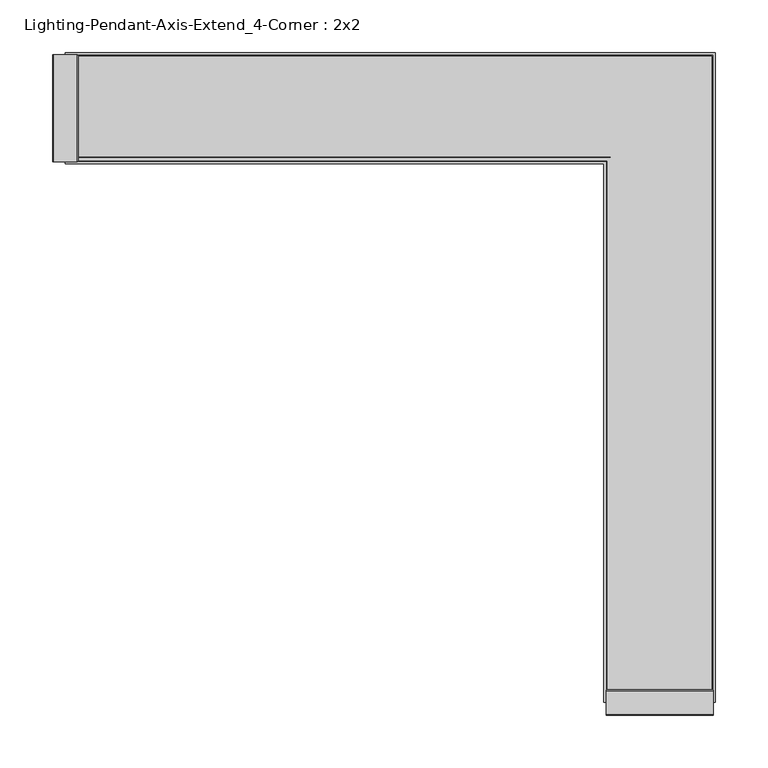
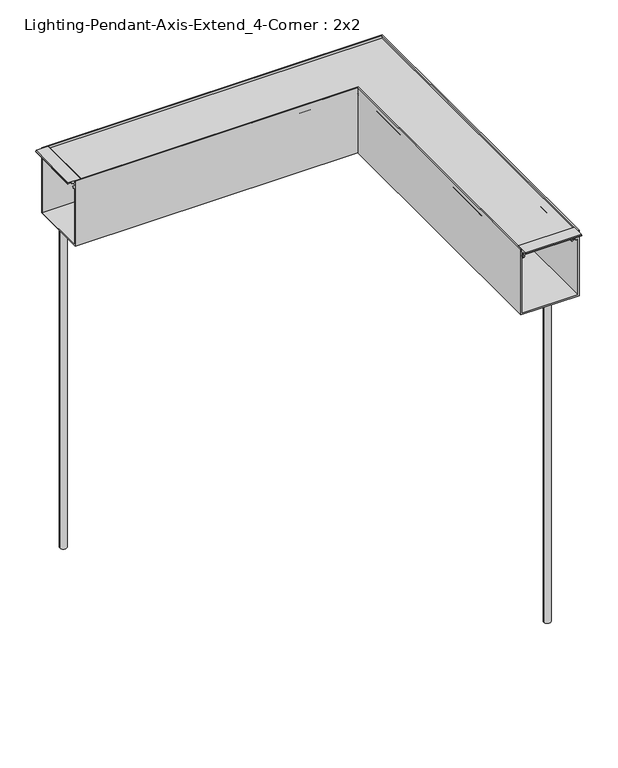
"""IFC4 building model written with IfcOpenShell, lengths in millimetres: light fixture geometry, Lighting-Pendant-Axis-Extend_4-Corner : 2x2."""

from ifc_helpers import new_model, si_unit, frame, origin, place, context, project, spatial, polyline, circle_curve, ellipse_curve, outline, extrude, source, transform, mapped, element, save
from ifc_brep_helpers import plane_surface, cylinder_surface, revolved_surface, advanced_brep


def lighting_pendant_axis_extend_4_corner_2x2_686a5cb6(model_context):
    return source(origin(), model_context, "Body", "SolidModel", [
        extrude(outline(polyline([(-551.65879, 733.2757861), (-551.65879, 731.80575), (-552.45254, 731.80575), (-552.45254, 732.5995), (-558.92319, 732.5995), (-558.92319, 729.7932981), (-568.60059, 729.7932981), (-568.60059, 732.5995), (-575.07124, 732.5995), (-575.07124, 731.80575), (-575.86499, 731.80575), (-575.86499, 733.2757861), (-574.9404463, 734.3775), (-552.5833337, 734.3775), (-551.65879, 733.2757861)])), frame((-50.75301, 0.0, 0.0), z_axis=(1.0, 0.0, 0.0), x_axis=(0.0, 1.0, 0.0)), (0.0, 0.0, 1.0), 101.50602),
        extrude(outline(polyline([(733.2757861, -551.65879), (734.3775, -552.5833337), (734.3775, -574.9404463), (733.2757861, -575.86499), (731.80575, -575.86499), (731.80575, -575.07124), (732.5995, -575.07124), (732.5995, -568.60059), (729.7932981, -568.60059), (729.7932981, -558.92319), (732.5995, -558.92319), (732.5995, -552.45254), (731.80575, -552.45254), (731.80575, -551.65879), (733.2757861, -551.65879)])), frame((0.0, -50.75301, 0.0), z_axis=(0.0, 1.0, 0.0), x_axis=(0.0, 0.0, 1.0)), (0.0, 0.0, 1.0), 101.50602),
        advanced_brep(
        [(6.35, -555.03699, 609.6), (-6.35, -555.03699, 609.6), (0.0, -555.03699, 609.6), (6.35, -555.03699, 0.0), (-6.35, -555.03699, 0.0), (0.0, -555.03699, 0.0)],
        [
            (0, 1, circle_curve(frame((0.0, -555.03699, 609.6), z_axis=(0.0, 0.0, 1.0), x_axis=(-1.0, 0.0, 0.0)), 6.35)),
            (1, 2),
            (2, 0),
            (1, 0, circle_curve(frame((0.0, -555.03699, 609.6), z_axis=(0.0, 0.0, 1.0), x_axis=(-1.0, 0.0, 0.0)), 6.35)),
            (3, 4, circle_curve(frame((0.0, -555.03699, 0.0), z_axis=(0.0, 0.0, 1.0), x_axis=(-1.0, 0.0, 0.0)), 6.35)),
            (4, 1),
            (0, 3),
            (4, 3, circle_curve(frame((0.0, -555.03699, 0.0), z_axis=(0.0, 0.0, 1.0), x_axis=(-1.0, 0.0, 0.0)), 6.35)),
            (5, 4),
            (3, 5),
        ],
        [
            plane_surface(frame((0.0, -555.03699, 609.6), z_axis=(0.0, 0.0, 1.0), x_axis=(-1.0, 0.0, 0.0))),
            cylinder_surface(frame((0.0, -555.03699, 2913.8581012), z_axis=(0.0, 0.0, -1.0), x_axis=(-1.0, 0.0, 0.0)), 6.35),
            plane_surface(frame((0.0, -555.03699, 0.0), z_axis=(0.0, 0.0, -1.0), x_axis=(-1.0, 0.0, 0.0))),
        ],
        [
            (0, [[1, 2, 3]]),
            (0, [[4, -3, -2]]),
            (1, [[5, 6, -1, 7]]),
            (1, [[8, -7, -4, -6]]),
            (2, [[9, -5, 10]]),
            (2, [[-10, -8, -9]]),
        ],
    ),
        advanced_brep(
        [(-548.68699, 0.0, 609.6), (-561.38699, 0.0, 609.6), (-555.03699, 0.0, 609.6), (-548.68699, 0.0, 0.0), (-561.38699, 0.0, 0.0), (-555.03699, 0.0, 0.0)],
        [
            (0, 1, circle_curve(frame((-555.03699, 0.0, 609.6), z_axis=(0.0, 0.0, 1.0), x_axis=(-1.0, 0.0, 0.0)), 6.35)),
            (1, 2),
            (2, 0),
            (1, 0, circle_curve(frame((-555.03699, 0.0, 609.6), z_axis=(0.0, 0.0, 1.0), x_axis=(-1.0, 0.0, 0.0)), 6.35)),
            (3, 4, circle_curve(frame((-555.03699, 0.0, 0.0), z_axis=(0.0, 0.0, 1.0), x_axis=(-1.0, 0.0, 0.0)), 6.35)),
            (4, 1),
            (0, 3),
            (4, 3, circle_curve(frame((-555.03699, 0.0, 0.0), z_axis=(0.0, 0.0, 1.0), x_axis=(-1.0, 0.0, 0.0)), 6.35)),
            (5, 4),
            (3, 5),
        ],
        [
            plane_surface(frame((-555.03699, 0.0, 609.6), z_axis=(0.0, 0.0, 1.0), x_axis=(-1.0, 0.0, 0.0))),
            cylinder_surface(frame((-555.03699, 0.0, 2913.8581012), z_axis=(0.0, 0.0, -1.0), x_axis=(-1.0, 0.0, 0.0)), 6.35),
            plane_surface(frame((-555.03699, 0.0, 0.0), z_axis=(0.0, 0.0, -1.0), x_axis=(-1.0, 0.0, 0.0))),
        ],
        [
            (0, [[1, 2, 3]]),
            (0, [[4, -3, -2]]),
            (1, [[5, 6, -1, 7]]),
            (1, [[8, -7, -4, -6]]),
            (2, [[9, -5, 10]]),
            (2, [[-10, -8, -9]]),
        ],
    ),
        advanced_brep(
        [(-556.81499, -44.9537362, 729.4879991), (-556.81499, -45.2924281, 723.0253737), (-556.81499, -46.1628914, 716.4194903), (-556.81499, -45.3476056, 714.9217575), (-556.81499, -43.9929166, 713.7223555), (-556.81499, -44.973818, 712.3943369), (-556.81499, -46.5470052, 713.7871908), (-556.81499, -47.8918907, 717.61776), (-556.81499, -46.2564041, 721.6569658), (-556.81499, -46.9204959, 723.5061789), (-556.81499, -46.607002, 729.4879991), (-556.81499, -49.61001, 729.4879991), (-556.81499, -49.61001, 731.393), (-556.81499, 49.61001, 731.393), (-556.81499, 49.61001, 729.4879991), (-556.81499, 46.607002, 729.4879991), (-556.81499, 46.9204959, 723.5061789), (-556.81499, 46.2564041, 721.6569658), (-556.81499, 47.8918907, 717.61776), (-556.81499, 46.5470052, 713.7871908), (-556.81499, 44.973818, 712.3943369), (-556.81499, 43.9929166, 713.7223555), (-556.81499, 45.3476056, 714.9217575), (-556.81499, 46.1628914, 716.4194903), (-556.81499, 45.2924281, 723.0253737), (-556.81499, 44.9537362, 729.4879991), (-44.9537362, -556.81499, 729.4879991), (44.9537362, -556.81499, 729.4879991), (45.2924281, -556.81499, 723.0253737), (46.1628914, -556.81499, 716.4194903), (45.3476056, -556.81499, 714.9217575), (43.9929166, -556.81499, 713.7223555), (44.973818, -556.81499, 712.3943369), (46.5470052, -556.81499, 713.7871908), (47.8918907, -556.81499, 717.61776), (46.2564041, -556.81499, 721.6569658), (46.9204959, -556.81499, 723.5061789), (46.607002, -556.81499, 729.4879991), (49.61001, -556.81499, 729.4879991), (49.61001, -556.81499, 731.393), (-49.61001, -556.81499, 731.393), (-49.61001, -556.81499, 729.4879991), (-46.607002, -556.81499, 729.4879991), (-46.9204959, -556.81499, 723.5061789), (-46.2564041, -556.81499, 721.6569658), (-47.8918907, -556.81499, 717.61776), (-46.5470052, -556.81499, 713.7871908), (-44.973818, -556.81499, 712.3943369), (-43.9929166, -556.81499, 713.7223555), (-45.3476056, -556.81499, 714.9217575), (-46.1628914, -556.81499, 716.4194903), (-45.2924281, -556.81499, 723.0253737), (-44.9537362, -44.9537362, 729.4879991), (-45.2924281, -45.2924281, 723.0253737), (-46.1628914, -46.1628914, 716.4194903), (-45.3476056, -45.3476056, 714.9217575), (-43.9929166, -43.9929166, 713.7223555), (-44.973818, -44.973818, 712.3943369), (-46.5470052, -46.5470052, 713.7871908), (-47.8918907, -47.8918907, 717.61776), (-46.2564041, -46.2564041, 721.6569658), (-46.9204959, -46.9204959, 723.5061789), (-46.607002, -46.607002, 729.4879991), (-49.61001, -49.61001, 729.4879991), (-49.61001, -49.61001, 731.393), (49.61001, 49.61001, 731.393), (44.9537362, 44.9537362, 729.4879991), (49.61001, 49.61001, 729.4879991), (46.607002, 46.607002, 729.4879991), (46.9204959, 46.9204959, 723.5061789), (46.2564041, 46.2564041, 721.6569658), (47.8918907, 47.8918907, 717.61776), (46.5470052, 46.5470052, 713.7871908), (44.973818, 44.973818, 712.3943369), (43.9929166, 43.9929166, 713.7223555), (45.3476056, 45.3476056, 714.9217575), (46.1628914, 46.1628914, 716.4194903), (45.2924281, 45.2924281, 723.0253737)],
        [
            (0, 1),
            (1, 2, circle_curve(frame((-556.81499, -48.03521, 720.0265), z_axis=(-1.0, 0.0, 0.0), x_axis=(0.0, 0.6748971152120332, 0.7379118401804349)), 4.064)),
            (2, 3, circle_curve(frame((-556.81499, -42.930354, 717.2083457), z_axis=(1.0, 0.0, 0.0), x_axis=(0.0, -0.9714904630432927, -0.23707863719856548)), 3.3274001)),
            (3, 4, circle_curve(frame((-556.81499, -37.9113277, 721.9560708), z_axis=(1.0, 0.0, 0.0), x_axis=(0.0, -0.7264901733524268, -0.68717685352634)), 10.2362001)),
            (4, 5, circle_curve(frame((-556.81499, -44.4833673, 713.0583462), z_axis=(-1.0, 0.0, 0.0), x_axis=(0.0, 0.5941256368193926, 0.8043722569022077)), 0.8255)),
            (5, 6, circle_curve(frame((-556.81499, -37.9113269, 721.9560717), z_axis=(-1.0, 0.0, 0.0), x_axis=(0.0, -0.594125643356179, -0.8043722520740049)), 11.8872013)),
            (6, 7, circle_curve(frame((-556.81499, -42.930354, 717.2083457), z_axis=(-1.0, 0.0, 0.0), x_axis=(0.0, -0.7264685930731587, -0.6871996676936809)), 4.9784001)),
            (7, 8, circle_curve(frame((-556.81499, -48.03521, 720.0265), z_axis=(1.0, 0.0, 0.0), x_axis=(0.0, 0.05939464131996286, -0.9982345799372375)), 2.413)),
            (8, 9, circle_curve(frame((-556.81499, -44.3839769, 723.3732456), z_axis=(-1.0, 0.0, 0.0), x_axis=(0.0, -0.7371760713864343, -0.675700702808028)), 2.54)),
            (9, 10),
            (10, 11),
            (11, 12),
            (12, 13),
            (13, 14),
            (14, 15),
            (15, 16),
            (16, 17, circle_curve(frame((-556.81499, 44.3839769, 723.3732456), z_axis=(-1.0, 0.0, 0.0), x_axis=(0.0, 0.7371760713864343, -0.675700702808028)), 2.54)),
            (17, 18, circle_curve(frame((-556.81499, 48.03521, 720.0265), z_axis=(1.0, 0.0, 0.0), x_axis=(0.0, -0.05939464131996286, -0.9982345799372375)), 2.413)),
            (18, 19, circle_curve(frame((-556.81499, 42.930354, 717.2083457), z_axis=(-1.0, 0.0, 0.0), x_axis=(0.0, 0.7264685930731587, -0.6871996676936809)), 4.9784001)),
            (19, 20, circle_curve(frame((-556.81499, 37.9113269, 721.9560717), z_axis=(-1.0, 0.0, 0.0), x_axis=(0.0, 0.594125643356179, -0.8043722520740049)), 11.8872013)),
            (20, 21, circle_curve(frame((-556.81499, 44.4833673, 713.0583462), z_axis=(-1.0, 0.0, 0.0), x_axis=(0.0, -0.5941256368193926, 0.8043722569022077)), 0.8255)),
            (21, 22, circle_curve(frame((-556.81499, 37.9113277, 721.9560708), z_axis=(1.0, 0.0, 0.0), x_axis=(0.0, 0.7264901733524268, -0.68717685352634)), 10.2362001)),
            (22, 23, circle_curve(frame((-556.81499, 42.930354, 717.2083457), z_axis=(1.0, 0.0, 0.0), x_axis=(0.0, 0.9714904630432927, -0.23707863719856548)), 3.3274001)),
            (23, 24, circle_curve(frame((-556.81499, 48.03521, 720.0265), z_axis=(-1.0, 0.0, 0.0), x_axis=(0.0, -0.6748971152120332, 0.7379118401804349)), 4.064)),
            (24, 25),
            (25, 0),
            (26, 27),
            (27, 28),
            (28, 29, circle_curve(frame((48.03521, -556.81499, 720.0265), z_axis=(0.0, -1.0, 0.0), x_axis=(-0.6748971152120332, 0.0, 0.7379118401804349)), 4.064)),
            (29, 30, circle_curve(frame((42.930354, -556.81499, 717.2083457), z_axis=(0.0, 1.0, 0.0), x_axis=(0.9714904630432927, 0.0, -0.23707863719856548)), 3.3274001)),
            (30, 31, circle_curve(frame((37.9113277, -556.81499, 721.9560708), z_axis=(0.0, 1.0, 0.0), x_axis=(0.7264901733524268, 0.0, -0.68717685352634)), 10.2362001)),
            (31, 32, circle_curve(frame((44.4833673, -556.81499, 713.0583462), z_axis=(0.0, -1.0, 0.0), x_axis=(-0.5941256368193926, 0.0, 0.8043722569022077)), 0.8255)),
            (32, 33, circle_curve(frame((37.9113269, -556.81499, 721.9560717), z_axis=(0.0, -1.0, 0.0), x_axis=(0.594125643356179, 0.0, -0.8043722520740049)), 11.8872013)),
            (33, 34, circle_curve(frame((42.930354, -556.81499, 717.2083457), z_axis=(0.0, -1.0, 0.0), x_axis=(0.7264685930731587, 0.0, -0.6871996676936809)), 4.9784001)),
            (34, 35, circle_curve(frame((48.03521, -556.81499, 720.0265), z_axis=(0.0, 1.0, 0.0), x_axis=(-0.05939464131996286, 0.0, -0.9982345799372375)), 2.413)),
            (35, 36, circle_curve(frame((44.3839769, -556.81499, 723.3732456), z_axis=(0.0, -1.0, 0.0), x_axis=(0.7371760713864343, 0.0, -0.675700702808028)), 2.54)),
            (36, 37),
            (37, 38),
            (38, 39),
            (39, 40),
            (40, 41),
            (41, 42),
            (42, 43),
            (43, 44, circle_curve(frame((-44.3839769, -556.81499, 723.3732456), z_axis=(0.0, -1.0, 0.0), x_axis=(-0.7371760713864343, 0.0, -0.675700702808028)), 2.54)),
            (44, 45, circle_curve(frame((-48.03521, -556.81499, 720.0265), z_axis=(0.0, 1.0, 0.0), x_axis=(0.05939464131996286, 0.0, -0.9982345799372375)), 2.413)),
            (45, 46, circle_curve(frame((-42.930354, -556.81499, 717.2083457), z_axis=(0.0, -1.0, 0.0), x_axis=(-0.7264685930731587, 0.0, -0.6871996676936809)), 4.9784001)),
            (46, 47, circle_curve(frame((-37.9113269, -556.81499, 721.9560717), z_axis=(0.0, -1.0, 0.0), x_axis=(-0.594125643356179, 0.0, -0.8043722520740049)), 11.8872013)),
            (47, 48, circle_curve(frame((-44.4833673, -556.81499, 713.0583462), z_axis=(0.0, -1.0, 0.0), x_axis=(0.5941256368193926, 0.0, 0.8043722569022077)), 0.8255)),
            (48, 49, circle_curve(frame((-37.9113277, -556.81499, 721.9560708), z_axis=(0.0, 1.0, 0.0), x_axis=(-0.7264901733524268, 0.0, -0.68717685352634)), 10.2362001)),
            (49, 50, circle_curve(frame((-42.930354, -556.81499, 717.2083457), z_axis=(0.0, 1.0, 0.0), x_axis=(-0.9714904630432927, 0.0, -0.23707863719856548)), 3.3274001)),
            (50, 51, circle_curve(frame((-48.03521, -556.81499, 720.0265), z_axis=(0.0, -1.0, 0.0), x_axis=(0.6748971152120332, 0.0, 0.7379118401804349)), 4.064)),
            (51, 26),
            (0, 52),
            (52, 53),
            (53, 1),
            (53, 54, ellipse_curve(frame((-48.03521, -48.03521, 720.0265), z_axis=(-0.7071067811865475, 0.7071067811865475, 0.0), x_axis=(-0.7071067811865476, -0.7071067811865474, 0.0)), 5.7473639, 4.064)),
            (54, 2),
            (54, 55, ellipse_curve(frame((-42.930354, -42.930354, 717.2083457), z_axis=(0.7071067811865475, -0.7071067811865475, 0.0), x_axis=(0.7071067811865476, 0.7071067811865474, 0.0)), 4.7056543, 3.3274001)),
            (55, 3),
            (55, 56, ellipse_curve(frame((-37.9113277, -37.9113277, 721.9560708), z_axis=(0.7071067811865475, -0.7071067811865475, 0.0), x_axis=(0.7071067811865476, 0.7071067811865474, 0.0)), 14.476173, 10.2362001)),
            (56, 4),
            (56, 57, ellipse_curve(frame((-44.4833673, -44.4833673, 713.0583462), z_axis=(-0.7071067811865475, 0.7071067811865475, 0.0), x_axis=(-0.7071067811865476, -0.7071067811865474, 0.0)), 1.1674333, 0.8255)),
            (57, 5),
            (57, 58, ellipse_curve(frame((-37.9113269, -37.9113269, 721.9560717), z_axis=(-0.7071067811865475, 0.7071067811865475, 0.0), x_axis=(-0.7071067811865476, -0.7071067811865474, 0.0)), 16.8110412, 11.8872013)),
            (58, 6),
            (58, 59, ellipse_curve(frame((-42.930354, -42.930354, 717.2083457), z_axis=(-0.7071067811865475, 0.7071067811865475, 0.0), x_axis=(-0.7071067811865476, -0.7071067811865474, 0.0)), 7.0405209, 4.9784001)),
            (59, 7),
            (59, 60, ellipse_curve(frame((-48.03521, -48.03521, 720.0265), z_axis=(0.7071067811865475, -0.7071067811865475, 0.0), x_axis=(0.7071067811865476, 0.7071067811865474, 0.0)), 3.4124973, 2.413)),
            (60, 8),
            (60, 61, ellipse_curve(frame((-44.3839769, -44.3839769, 723.3732456), z_axis=(-0.7071067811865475, 0.7071067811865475, 0.0), x_axis=(-0.7071067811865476, -0.7071067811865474, 0.0)), 3.5921024, 2.54)),
            (61, 9),
            (61, 62),
            (62, 10),
            (62, 42),
            (41, 63),
            (63, 11),
            (63, 64),
            (64, 12),
            (64, 40),
            (39, 65),
            (65, 13),
            (25, 66),
            (66, 27),
            (26, 52),
            (65, 67),
            (67, 14),
            (67, 38),
            (37, 68),
            (68, 15),
            (68, 69),
            (69, 16),
            (69, 70, ellipse_curve(frame((44.3839769, 44.3839769, 723.3732456), z_axis=(-0.7071067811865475, 0.7071067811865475, 0.0), x_axis=(-0.7071067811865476, -0.7071067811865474, 0.0)), 3.5921024, 2.54)),
            (70, 17),
            (70, 71, ellipse_curve(frame((48.03521, 48.03521, 720.0265), z_axis=(0.7071067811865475, -0.7071067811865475, 0.0), x_axis=(0.7071067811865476, 0.7071067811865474, 0.0)), 3.4124973, 2.413)),
            (71, 18),
            (71, 72, ellipse_curve(frame((42.930354, 42.930354, 717.2083457), z_axis=(-0.7071067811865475, 0.7071067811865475, 0.0), x_axis=(-0.7071067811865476, -0.7071067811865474, 0.0)), 7.0405209, 4.9784001)),
            (72, 19),
            (72, 73, ellipse_curve(frame((37.9113269, 37.9113269, 721.9560717), z_axis=(-0.7071067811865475, 0.7071067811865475, 0.0), x_axis=(-0.7071067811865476, -0.7071067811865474, 0.0)), 16.8110412, 11.8872013)),
            (73, 20),
            (73, 74, ellipse_curve(frame((44.4833673, 44.4833673, 713.0583462), z_axis=(-0.7071067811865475, 0.7071067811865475, 0.0), x_axis=(-0.7071067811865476, -0.7071067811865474, 0.0)), 1.1674333, 0.8255)),
            (74, 21),
            (74, 75, ellipse_curve(frame((37.9113277, 37.9113277, 721.9560708), z_axis=(0.7071067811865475, -0.7071067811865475, 0.0), x_axis=(0.7071067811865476, 0.7071067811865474, 0.0)), 14.476173, 10.2362001)),
            (75, 22),
            (75, 76, ellipse_curve(frame((42.930354, 42.930354, 717.2083457), z_axis=(0.7071067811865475, -0.7071067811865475, 0.0), x_axis=(0.7071067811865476, 0.7071067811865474, 0.0)), 4.7056543, 3.3274001)),
            (76, 23),
            (76, 77, ellipse_curve(frame((48.03521, 48.03521, 720.0265), z_axis=(-0.7071067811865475, 0.7071067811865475, 0.0), x_axis=(-0.7071067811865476, -0.7071067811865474, 0.0)), 5.7473639, 4.064)),
            (77, 24),
            (77, 66),
            (51, 53),
            (50, 54),
            (49, 55),
            (48, 56),
            (47, 57),
            (46, 58),
            (45, 59),
            (44, 60),
            (43, 61),
            (36, 69),
            (35, 70),
            (34, 71),
            (33, 72),
            (32, 73),
            (31, 74),
            (30, 75),
            (29, 76),
            (28, 77),
        ],
        [
            plane_surface(frame((-556.81499, 0.0, 0.0), z_axis=(-1.0, 0.0, 0.0), x_axis=(0.0, 0.0, 1.0))),
            plane_surface(frame((0.0, -556.81499, 0.0), z_axis=(0.0, -1.0, 0.0), x_axis=(0.0, 0.0, 1.0))),
            plane_surface(frame((-556.81499, -44.9537362, 729.4879991), z_axis=(0.0, 0.9986295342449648, -0.05233596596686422), x_axis=(1.0, 0.0, 0.0))),
            cylinder_surface(frame((-556.81499, -48.03521, 720.0265), z_axis=(-1.0, 0.0, 0.0), x_axis=(0.0, 0.6748971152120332, 0.7379118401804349)), 4.064),
            revolved_surface(polyline([(-39.6029539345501, -46.1628914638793, 716.4194902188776), (-556.81499, -46.1628914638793, 716.4194902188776)]), (-556.81499, -42.930354, 717.2083457), (1.0000000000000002, 0.0, 0.0)),
            revolved_surface(polyline([(-27.67512760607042, -45.34782648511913, 714.921991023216), (-556.81499, -45.34782648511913, 714.921991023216)]), (-556.81499, -37.9113277, 721.9560708), (1.0, 0.0, 0.0)),
            cylinder_surface(frame((-556.81499, -44.4833673, 713.0583462), z_axis=(-1.0, 0.0, 0.0), x_axis=(0.0, 0.5941256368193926, 0.8043722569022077)), 0.8255),
            cylinder_surface(frame((-556.81499, -37.9113269, 721.9560717), z_axis=(-1.0, 0.0, 0.0), x_axis=(0.0, -0.594125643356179, -0.8043722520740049)), 11.8872013),
            cylinder_surface(frame((-556.81499, -42.930354, 717.2083457), z_axis=(-1.0, 0.0, 0.0), x_axis=(0.0, -0.7264685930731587, -0.6871996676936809)), 4.9784001),
            revolved_surface(polyline([(-45.62221001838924, -47.89189073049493, 717.6177599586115), (-556.81499, -47.89189073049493, 717.6177599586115)]), (-556.81499, -48.03521, 720.0265), (1.0, 0.0, 0.0)),
            cylinder_surface(frame((-556.81499, -44.3839769, 723.3732456), z_axis=(-1.0, 0.0, 0.0), x_axis=(0.0, -0.7371760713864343, -0.675700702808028)), 2.54),
            plane_surface(frame((-556.81499, -46.9204959, 723.5061789), z_axis=(0.0, -0.9986295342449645, 0.05233596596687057), x_axis=(1.0, 0.0, 0.0))),
            plane_surface(frame((-556.81499, -46.607002, 729.4879991), z_axis=(0.0, 0.0, -1.0), x_axis=(1.0, 0.0, 0.0))),
            plane_surface(frame((-556.81499, -49.61001, 729.4879991), z_axis=(0.0, -1.0, 0.0), x_axis=(1.0, 0.0, 0.0))),
            plane_surface(frame((-556.81499, -49.61001, 731.393), z_axis=(0.0, 0.0, 1.0), x_axis=(1.0, 0.0, 0.0))),
            plane_surface(frame((-556.81499, 44.9537362, 729.4879991), z_axis=(0.0, 0.0, -1.0), x_axis=(1.0, 0.0, 0.0))),
            plane_surface(frame((-556.81499, 49.61001, 731.393), z_axis=(0.0, 1.0, 0.0), x_axis=(1.0, 0.0, 0.0))),
            plane_surface(frame((-556.81499, 49.61001, 729.4879991), z_axis=(0.0, 0.0, -1.0), x_axis=(1.0, 0.0, 0.0))),
            plane_surface(frame((-556.81499, 46.607002, 729.4879991), z_axis=(0.0, 0.9986295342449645, 0.05233596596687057), x_axis=(1.0, 0.0, 0.0))),
            cylinder_surface(frame((-556.81499, 44.3839769, 723.3732456), z_axis=(-1.0, 0.0, 0.0), x_axis=(0.0, 0.7371760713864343, -0.675700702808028)), 2.54),
            revolved_surface(polyline([(50.44820998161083, 47.89189073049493, 717.6177599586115), (-556.81499, 47.89189073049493, 717.6177599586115)]), (-556.81499, 48.03521, 720.0265), (1.0, 0.0, 0.0)),
            cylinder_surface(frame((-556.81499, 42.930354, 717.2083457), z_axis=(-1.0, 0.0, 0.0), x_axis=(0.0, 0.7264685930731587, -0.6871996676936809)), 4.9784001),
            cylinder_surface(frame((-556.81499, 37.9113269, 721.9560717), z_axis=(-1.0, 0.0, 0.0), x_axis=(0.0, 0.594125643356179, -0.8043722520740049)), 11.8872013),
            cylinder_surface(frame((-556.81499, 44.4833673, 713.0583462), z_axis=(-1.0, 0.0, 0.0), x_axis=(0.0, -0.5941256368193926, 0.8043722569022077)), 0.8255),
            revolved_surface(polyline([(48.14752779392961, 45.34782648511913, 714.921991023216), (-556.81499, 45.34782648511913, 714.921991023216)]), (-556.81499, 37.9113277, 721.9560708), (1.0, 0.0, 0.0)),
            revolved_surface(polyline([(46.25775406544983, 46.1628914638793, 716.4194902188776), (-556.81499, 46.1628914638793, 716.4194902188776)]), (-556.81499, 42.930354, 717.2083457), (1.0000000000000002, 0.0, 0.0)),
            cylinder_surface(frame((-556.81499, 48.03521, 720.0265), z_axis=(-1.0, 0.0, 0.0), x_axis=(0.0, -0.6748971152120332, 0.7379118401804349)), 4.064),
            plane_surface(frame((-556.81499, 45.2924281, 723.0253737), z_axis=(0.0, -0.9986295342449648, -0.05233596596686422), x_axis=(1.0, 0.0, 0.0))),
            plane_surface(frame((-44.9537362, -44.9537362, 729.4879991), z_axis=(0.9986295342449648, 0.0, -0.05233596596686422), x_axis=(0.0, -1.0, 0.0))),
            cylinder_surface(frame((-48.03521, 0.0, 720.0265), z_axis=(0.0, 1.0, 0.0), x_axis=(0.6748971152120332, 0.0, 0.7379118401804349)), 4.064),
            revolved_surface(polyline([(-46.1628914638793, -556.8149900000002, 716.4194902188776), (-46.1628914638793, -39.60295393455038, 716.4194902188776)]), (-42.930354, 0.0, 717.2083457), (0.0, -1.0000000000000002, 0.0)),
            revolved_surface(polyline([(-45.34782648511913, -556.81499, 714.921991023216), (-45.34782648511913, -27.675127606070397, 714.921991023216)]), (-37.9113277, 0.0, 721.9560708), (0.0, -1.0, 0.0)),
            cylinder_surface(frame((-44.4833673, 0.0, 713.0583462), z_axis=(0.0, 1.0, 0.0), x_axis=(0.5941256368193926, 0.0, 0.8043722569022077)), 0.8255),
            cylinder_surface(frame((-37.9113269, 0.0, 721.9560717), z_axis=(0.0, 1.0, 0.0), x_axis=(-0.594125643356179, 0.0, -0.8043722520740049)), 11.8872013),
            cylinder_surface(frame((-42.930354, 0.0, 717.2083457), z_axis=(0.0, 1.0, 0.0), x_axis=(-0.7264685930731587, 0.0, -0.6871996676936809)), 4.9784001),
            revolved_surface(polyline([(-47.89189073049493, -556.81499, 717.6177599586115), (-47.89189073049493, -45.62221001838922, 717.6177599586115)]), (-48.03521, 0.0, 720.0265), (0.0, -1.0, 0.0)),
            cylinder_surface(frame((-44.3839769, 0.0, 723.3732456), z_axis=(0.0, 1.0, 0.0), x_axis=(-0.7371760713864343, 0.0, -0.675700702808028)), 2.54),
            plane_surface(frame((-46.9204959, -46.9204959, 723.5061789), z_axis=(-0.9986295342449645, 0.0, 0.05233596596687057), x_axis=(0.0, -1.0, 0.0))),
            plane_surface(frame((-49.61001, -49.61001, 729.4879991), z_axis=(-1.0, 0.0, 0.0), x_axis=(0.0, -1.0, 0.0))),
            plane_surface(frame((49.61001, 49.61001, 731.393), z_axis=(1.0, 0.0, 0.0), x_axis=(0.0, -1.0, 0.0))),
            plane_surface(frame((46.607002, 46.607002, 729.4879991), z_axis=(0.9986295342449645, 0.0, 0.05233596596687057), x_axis=(0.0, -1.0, 0.0))),
            cylinder_surface(frame((44.3839769, 0.0, 723.3732456), z_axis=(0.0, 1.0, 0.0), x_axis=(0.7371760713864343, 0.0, -0.675700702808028)), 2.54),
            revolved_surface(polyline([(47.89189073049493, -556.81499, 717.6177599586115), (47.89189073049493, 50.44820998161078, 717.6177599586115)]), (48.03521, 0.0, 720.0265), (0.0, -1.0, 0.0)),
            cylinder_surface(frame((42.930354, 0.0, 717.2083457), z_axis=(0.0, 1.0, 0.0), x_axis=(0.7264685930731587, 0.0, -0.6871996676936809)), 4.9784001),
            cylinder_surface(frame((37.9113269, 0.0, 721.9560717), z_axis=(0.0, 1.0, 0.0), x_axis=(0.594125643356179, 0.0, -0.8043722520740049)), 11.8872013),
            cylinder_surface(frame((44.4833673, 0.0, 713.0583462), z_axis=(0.0, 1.0, 0.0), x_axis=(-0.5941256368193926, 0.0, 0.8043722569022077)), 0.8255),
            revolved_surface(polyline([(45.34782648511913, -556.81499, 714.921991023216), (45.34782648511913, 48.147527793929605, 714.921991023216)]), (37.9113277, 0.0, 721.9560708), (0.0, -1.0, 0.0)),
            revolved_surface(polyline([(46.1628914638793, -556.8149900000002, 716.4194902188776), (46.1628914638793, 46.25775406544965, 716.4194902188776)]), (42.930354, 0.0, 717.2083457), (0.0, -1.0000000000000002, 0.0)),
            cylinder_surface(frame((48.03521, 0.0, 720.0265), z_axis=(0.0, 1.0, 0.0), x_axis=(-0.6748971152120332, 0.0, 0.7379118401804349)), 4.064),
            plane_surface(frame((45.2924281, 45.2924281, 723.0253737), z_axis=(-0.9986295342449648, 0.0, -0.05233596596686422), x_axis=(0.0, -1.0, 0.0))),
        ],
        [
            (0, [[1, 2, 3, 4, 5, 6, 7, 8, 9, 10, 11, 12, 13, 14, 15, 16, 17, 18, 19, 20, 21, 22, 23, 24, 25, 26]]),
            (1, [[27, 28, 29, 30, 31, 32, 33, 34, 35, 36, 37, 38, 39, 40, 41, 42, 43, 44, 45, 46, 47, 48, 49, 50, 51, 52]]),
            (2, [[-1, 53, 54, 55]]),
            (3, [[-2, -55, 56, 57]]),
            (4, [[-3, -57, 58, 59]]),
            (5, [[-4, -59, 60, 61]]),
            (6, [[-5, -61, 62, 63]]),
            (7, [[-6, -63, 64, 65]]),
            (8, [[-7, -65, 66, 67]]),
            (9, [[-8, -67, 68, 69]]),
            (10, [[-9, -69, 70, 71]]),
            (11, [[-10, -71, 72, 73]]),
            (12, [[-11, -73, 74, -42, 75, 76]]),
            (13, [[-12, -76, 77, 78]]),
            (14, [[-13, -78, 79, -40, 80, 81]]),
            (15, [[-26, 82, 83, -27, 84, -53]]),
            (16, [[-14, -81, 85, 86]]),
            (17, [[-15, -86, 87, -38, 88, 89]]),
            (18, [[-16, -89, 90, 91]]),
            (19, [[-17, -91, 92, 93]]),
            (20, [[-18, -93, 94, 95]]),
            (21, [[-19, -95, 96, 97]]),
            (22, [[-20, -97, 98, 99]]),
            (23, [[-21, -99, 100, 101]]),
            (24, [[-22, -101, 102, 103]]),
            (25, [[-23, -103, 104, 105]]),
            (26, [[-24, -105, 106, 107]]),
            (27, [[-25, -107, 108, -82]]),
            (28, [[-54, -84, -52, 109]]),
            (29, [[-56, -109, -51, 110]]),
            (30, [[-58, -110, -50, 111]]),
            (31, [[-60, -111, -49, 112]]),
            (32, [[-62, -112, -48, 113]]),
            (33, [[-64, -113, -47, 114]]),
            (34, [[-66, -114, -46, 115]]),
            (35, [[-68, -115, -45, 116]]),
            (36, [[-70, -116, -44, 117]]),
            (37, [[-72, -117, -43, -74]]),
            (38, [[-77, -75, -41, -79]]),
            (39, [[-85, -80, -39, -87]]),
            (40, [[-90, -88, -37, 118]]),
            (41, [[-92, -118, -36, 119]]),
            (42, [[-94, -119, -35, 120]]),
            (43, [[-96, -120, -34, 121]]),
            (44, [[-98, -121, -33, 122]]),
            (45, [[-100, -122, -32, 123]]),
            (46, [[-102, -123, -31, 124]]),
            (47, [[-104, -124, -30, 125]]),
            (48, [[-106, -125, -29, 126]]),
            (49, [[-108, -126, -28, -83]]),
        ],
    ),
        advanced_brep(
        [(-563.76189, -50.75301, 719.4677), (-563.76189, -50.75301, 611.632), (-563.76189, 50.75301, 611.632), (-563.76189, 50.75301, 719.4677), (-563.76189, 48.9135897, 719.4677), (-563.76189, 46.6540646, 718.1631626), (-563.76189, 45.4706616, 720.4183682), (-563.76189, 48.84801, 723.2523), (-563.76189, 48.84801, 721.4997), (-563.76189, 50.75301, 721.4997), (-563.76189, 50.75301, 728.0275), (-563.76189, 48.84801, 728.0275), (-563.76189, 48.84801, 726.5035), (-563.76189, 47.19701, 726.5900252), (-563.76189, 47.19701, 729.2975), (-563.76189, 50.75301, 729.2975), (-563.76189, 50.75301, 734.3775), (-563.76189, 52.78501, 734.3775), (-563.76189, 52.78501, 609.6), (-563.76189, -52.78501, 609.6), (-563.76189, -52.78501, 734.3775), (-563.76189, -50.75301, 734.3775), (-563.76189, -50.75301, 729.2975), (-563.76189, -47.19701, 729.2975), (-563.76189, -47.19701, 726.5900252), (-563.76189, -48.84801, 726.5035), (-563.76189, -48.84801, 728.0275), (-563.76189, -50.75301, 728.0275), (-563.76189, -50.75301, 721.4997), (-563.76189, -48.84801, 721.4997), (-563.76189, -48.84801, 723.2523), (-563.76189, -45.4706616, 720.4183682), (-563.76189, -46.6540646, 718.1631626), (-563.76189, -48.9135897, 719.4677), (-50.75301, -563.76189, 719.4677), (-48.9135897, -563.76189, 719.4677), (-46.6540646, -563.76189, 718.1631626), (-45.4706616, -563.76189, 720.4183682), (-48.84801, -563.76189, 723.2523), (-48.84801, -563.76189, 721.4997), (-50.75301, -563.76189, 721.4997), (-50.75301, -563.76189, 728.0275), (-48.84801, -563.76189, 728.0275), (-48.84801, -563.76189, 726.5035), (-47.19701, -563.76189, 726.5900252), (-47.19701, -563.76189, 729.2975), (-50.75301, -563.76189, 729.2975), (-50.75301, -563.76189, 734.3775), (-52.78501, -563.76189, 734.3775), (-52.78501, -563.76189, 609.6), (52.78501, -563.76189, 609.6), (52.78501, -563.76189, 734.3775), (50.75301, -563.76189, 734.3775), (50.75301, -563.76189, 729.2975), (47.19701, -563.76189, 729.2975), (47.19701, -563.76189, 726.5900252), (48.84801, -563.76189, 726.5035), (48.84801, -563.76189, 728.0275), (50.75301, -563.76189, 728.0275), (50.75301, -563.76189, 721.4997), (48.84801, -563.76189, 721.4997), (48.84801, -563.76189, 723.2523), (45.4706616, -563.76189, 720.4183682), (46.6540646, -563.76189, 718.1631626), (48.9135897, -563.76189, 719.4677), (50.75301, -563.76189, 719.4677), (50.75301, -563.76189, 611.632), (-50.75301, -563.76189, 611.632), (-50.75301, -50.75301, 719.4677), (-50.75301, -50.75301, 611.632), (50.75301, 50.75301, 611.632), (52.78501, 52.78501, 609.6), (-52.78501, -52.78501, 609.6), (-52.78501, -52.78501, 734.3775), (-50.75301, -50.75301, 734.3775), (-50.75301, -50.75301, 729.2975), (-47.19701, -47.19701, 729.2975), (-47.19701, -47.19701, 726.5900252), (-48.84801, -48.84801, 726.5035), (-48.84801, -48.84801, 728.0275), (-50.75301, -50.75301, 728.0275), (-50.75301, -50.75301, 721.4997), (-48.84801, -48.84801, 721.4997), (-48.84801, -48.84801, 723.2523), (-45.4706616, -45.4706616, 720.4183682), (-46.6540646, -46.6540646, 718.1631626), (-48.9135897, -48.9135897, 719.4677), (50.75301, 50.75301, 719.4677), (48.9135897, 48.9135897, 719.4677), (46.6540646, 46.6540646, 718.1631626), (45.4706616, 45.4706616, 720.4183682), (48.84801, 48.84801, 723.2523), (48.84801, 48.84801, 721.4997), (50.75301, 50.75301, 721.4997), (50.75301, 50.75301, 728.0275), (48.84801, 48.84801, 728.0275), (48.84801, 48.84801, 726.5035), (47.19701, 47.19701, 726.5900252), (47.19701, 47.19701, 729.2975), (50.75301, 50.75301, 729.2975), (50.75301, 50.75301, 734.3775), (52.78501, 52.78501, 734.3775)],
        [
            (0, 1),
            (1, 2),
            (2, 3),
            (3, 4),
            (4, 5, circle_curve(frame((-563.76189, 47.4072397, 719.4677), z_axis=(-1.0, 0.0, 0.0), x_axis=(0.0, 1.0, 0.0)), 1.5063501)),
            (5, 6, circle_curve(frame((-563.76189, 47.8452221, 720.2263079), z_axis=(-1.0, 0.0, 0.0), x_axis=(0.0, -0.5000000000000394, -0.866025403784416)), 2.382315)),
            (6, 7),
            (7, 8),
            (8, 9),
            (9, 10),
            (10, 11),
            (11, 12),
            (12, 13),
            (13, 14),
            (14, 15),
            (15, 16),
            (16, 17),
            (17, 18),
            (18, 19),
            (19, 20),
            (20, 21),
            (21, 22),
            (22, 23),
            (23, 24),
            (24, 25),
            (25, 26),
            (26, 27),
            (27, 28),
            (28, 29),
            (29, 30),
            (30, 31),
            (31, 32, circle_curve(frame((-563.76189, -47.8452221, 720.2263079), z_axis=(-1.0, 0.0, 0.0), x_axis=(0.0, 0.5000000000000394, -0.866025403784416)), 2.382315)),
            (32, 33, circle_curve(frame((-563.76189, -47.4072397, 719.4677), z_axis=(-1.0, 0.0, 0.0), x_axis=(0.0, -1.0, 0.0)), 1.5063501)),
            (33, 0),
            (34, 35),
            (35, 36, circle_curve(frame((-47.4072397, -563.76189, 719.4677), z_axis=(0.0, -1.0, 0.0), x_axis=(-1.0, 0.0, 0.0)), 1.5063501)),
            (36, 37, circle_curve(frame((-47.8452221, -563.76189, 720.2263079), z_axis=(0.0, -1.0, 0.0), x_axis=(0.5000000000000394, 0.0, -0.866025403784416)), 2.382315)),
            (37, 38),
            (38, 39),
            (39, 40),
            (40, 41),
            (41, 42),
            (42, 43),
            (43, 44),
            (44, 45),
            (45, 46),
            (46, 47),
            (47, 48),
            (48, 49),
            (49, 50),
            (50, 51),
            (51, 52),
            (52, 53),
            (53, 54),
            (54, 55),
            (55, 56),
            (56, 57),
            (57, 58),
            (58, 59),
            (59, 60),
            (60, 61),
            (61, 62),
            (62, 63, circle_curve(frame((47.8452221, -563.76189, 720.2263079), z_axis=(0.0, -1.0, 0.0), x_axis=(-0.5000000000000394, 0.0, -0.866025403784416)), 2.382315)),
            (63, 64, circle_curve(frame((47.4072397, -563.76189, 719.4677), z_axis=(0.0, -1.0, 0.0), x_axis=(1.0, 0.0, 0.0)), 1.5063501)),
            (64, 65),
            (65, 66),
            (66, 67),
            (67, 34),
            (0, 68),
            (68, 69),
            (69, 1),
            (69, 67),
            (66, 70),
            (70, 2),
            (18, 71),
            (71, 50),
            (49, 72),
            (72, 19),
            (72, 73),
            (73, 20),
            (73, 48),
            (47, 74),
            (74, 21),
            (74, 75),
            (75, 22),
            (75, 46),
            (45, 76),
            (76, 23),
            (76, 77),
            (77, 24),
            (77, 78),
            (78, 25),
            (78, 79),
            (79, 26),
            (79, 42),
            (41, 80),
            (80, 27),
            (80, 81),
            (81, 28),
            (81, 40),
            (39, 82),
            (82, 29),
            (82, 83),
            (83, 30),
            (83, 84),
            (84, 31),
            (84, 85, ellipse_curve(frame((-47.8452221, -47.8452221, 720.2263079), z_axis=(-0.7071067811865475, 0.7071067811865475, 0.0), x_axis=(-0.7071067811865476, -0.7071067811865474, 0.0)), 3.3691022, 2.382315)),
            (85, 32),
            (85, 86, ellipse_curve(frame((-47.4072397, -47.4072397, 719.4677), z_axis=(-0.7071067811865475, 0.7071067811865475, 0.0), x_axis=(-0.7071067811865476, -0.7071067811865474, 0.0)), 2.1303007, 1.5063501)),
            (86, 33),
            (86, 35),
            (34, 68),
            (70, 87),
            (87, 3),
            (87, 65),
            (64, 88),
            (88, 4),
            (88, 89, ellipse_curve(frame((47.4072397, 47.4072397, 719.4677), z_axis=(-0.7071067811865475, 0.7071067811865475, 0.0), x_axis=(-0.7071067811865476, -0.7071067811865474, 0.0)), 2.1303007, 1.5063501)),
            (89, 5),
            (89, 90, ellipse_curve(frame((47.8452221, 47.8452221, 720.2263079), z_axis=(-0.7071067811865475, 0.7071067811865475, 0.0), x_axis=(-0.7071067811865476, -0.7071067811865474, 0.0)), 3.3691022, 2.382315)),
            (90, 6),
            (90, 91),
            (91, 7),
            (91, 92),
            (92, 8),
            (92, 60),
            (59, 93),
            (93, 9),
            (93, 94),
            (94, 10),
            (94, 58),
            (57, 95),
            (95, 11),
            (95, 96),
            (96, 12),
            (96, 97),
            (97, 13),
            (97, 98),
            (98, 14),
            (98, 54),
            (53, 99),
            (99, 15),
            (99, 100),
            (100, 16),
            (100, 52),
            (51, 101),
            (101, 17),
            (101, 71),
            (63, 89),
            (62, 90),
            (61, 91),
            (56, 96),
            (55, 97),
            (44, 77),
            (43, 78),
            (38, 83),
            (37, 84),
            (36, 85),
        ],
        [
            plane_surface(frame((-563.76189, 0.0, 0.0), z_axis=(-1.0, 0.0, 0.0), x_axis=(0.0, 0.0, 1.0))),
            plane_surface(frame((0.0, -563.76189, 0.0), z_axis=(0.0, -1.0, 0.0), x_axis=(0.0, 0.0, 1.0))),
            plane_surface(frame((-563.76189, -50.75301, 719.4677), z_axis=(0.0, 1.0, 0.0), x_axis=(1.0, 0.0, 0.0))),
            plane_surface(frame((-563.76189, -50.75301, 611.632), z_axis=(0.0, 0.0, 1.0), x_axis=(1.0, 0.0, 0.0))),
            plane_surface(frame((-563.76189, 52.78501, 609.6), z_axis=(0.0, 0.0, -1.0), x_axis=(1.0, 0.0, 0.0))),
            plane_surface(frame((-563.76189, -52.78501, 609.6), z_axis=(0.0, -1.0, 0.0), x_axis=(1.0, 0.0, 0.0))),
            plane_surface(frame((-563.76189, -52.78501, 734.3775), z_axis=(0.0, 0.0, 1.0), x_axis=(1.0, 0.0, 0.0))),
            plane_surface(frame((-563.76189, -50.75301, 734.3775), z_axis=(0.0, 1.0, 0.0), x_axis=(1.0, 0.0, 0.0))),
            plane_surface(frame((-563.76189, -50.75301, 729.2975), z_axis=(0.0, 0.0, 1.0), x_axis=(1.0, 0.0, 0.0))),
            plane_surface(frame((-563.76189, -47.19701, 729.2975), z_axis=(0.0, 1.0, 0.0), x_axis=(1.0, 0.0, 0.0))),
            plane_surface(frame((-563.76189, -47.19701, 726.5900252), z_axis=(0.0, 0.052335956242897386, -0.9986295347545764), x_axis=(1.0, 0.0, 0.0))),
            plane_surface(frame((-563.76189, -48.84801, 726.5035), z_axis=(0.0, -1.0, 0.0), x_axis=(1.0, 0.0, 0.0))),
            plane_surface(frame((-563.76189, -48.84801, 728.0275), z_axis=(0.0, 0.0, -1.0), x_axis=(1.0, 0.0, 0.0))),
            plane_surface(frame((-563.76189, -50.75301, 728.0275), z_axis=(0.0, 1.0, 0.0), x_axis=(1.0, 0.0, 0.0))),
            plane_surface(frame((-563.76189, -50.75301, 721.4997), z_axis=(0.0, 0.0, 1.0), x_axis=(1.0, 0.0, 0.0))),
            plane_surface(frame((-563.76189, -48.84801, 721.4997), z_axis=(0.0, -1.0, 0.0), x_axis=(1.0, 0.0, 0.0))),
            plane_surface(frame((-563.76189, -48.84801, 723.2523), z_axis=(0.0, 0.6427876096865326, 0.7660444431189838), x_axis=(1.0, 0.0, 0.0))),
            cylinder_surface(frame((-563.76189, -47.8452221, 720.2263079), z_axis=(-1.0, 0.0, 0.0), x_axis=(0.0, 0.5000000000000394, -0.866025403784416)), 2.382315),
            cylinder_surface(frame((-563.76189, -47.4072397, 719.4677), z_axis=(-1.0, 0.0, 0.0), x_axis=(0.0, -1.0, 0.0)), 1.5063501),
            plane_surface(frame((-563.76189, -48.9135897, 719.4677), z_axis=(0.0, 0.0, -1.0), x_axis=(1.0, 0.0, 0.0))),
            plane_surface(frame((-563.76189, 50.75301, 611.632), z_axis=(0.0, -1.0, 0.0), x_axis=(1.0, 0.0, 0.0))),
            plane_surface(frame((-563.76189, 50.75301, 719.4677), z_axis=(0.0, 0.0, -1.0), x_axis=(1.0, 0.0, 0.0))),
            cylinder_surface(frame((-563.76189, 47.4072397, 719.4677), z_axis=(-1.0, 0.0, 0.0), x_axis=(0.0, 1.0, 0.0)), 1.5063501),
            cylinder_surface(frame((-563.76189, 47.8452221, 720.2263079), z_axis=(-1.0, 0.0, 0.0), x_axis=(0.0, -0.5000000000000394, -0.866025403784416)), 2.382315),
            plane_surface(frame((-563.76189, 45.4706616, 720.4183682), z_axis=(0.0, -0.6427876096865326, 0.7660444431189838), x_axis=(1.0, 0.0, 0.0))),
            plane_surface(frame((-563.76189, 48.84801, 723.2523), z_axis=(0.0, 1.0, 0.0), x_axis=(1.0, 0.0, 0.0))),
            plane_surface(frame((-563.76189, 48.84801, 721.4997), z_axis=(0.0, 0.0, 1.0), x_axis=(1.0, 0.0, 0.0))),
            plane_surface(frame((-563.76189, 50.75301, 721.4997), z_axis=(0.0, -1.0, 0.0), x_axis=(1.0, 0.0, 0.0))),
            plane_surface(frame((-563.76189, 50.75301, 728.0275), z_axis=(0.0, 0.0, -1.0), x_axis=(1.0, 0.0, 0.0))),
            plane_surface(frame((-563.76189, 48.84801, 728.0275), z_axis=(0.0, 1.0, 0.0), x_axis=(1.0, 0.0, 0.0))),
            plane_surface(frame((-563.76189, 48.84801, 726.5035), z_axis=(0.0, -0.052335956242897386, -0.9986295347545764), x_axis=(1.0, 0.0, 0.0))),
            plane_surface(frame((-563.76189, 47.19701, 726.5900252), z_axis=(0.0, -1.0, 0.0), x_axis=(1.0, 0.0, 0.0))),
            plane_surface(frame((-563.76189, 47.19701, 729.2975), z_axis=(0.0, 0.0, 1.0), x_axis=(1.0, 0.0, 0.0))),
            plane_surface(frame((-563.76189, 50.75301, 729.2975), z_axis=(0.0, -1.0, 0.0), x_axis=(1.0, 0.0, 0.0))),
            plane_surface(frame((-563.76189, 50.75301, 734.3775), z_axis=(0.0, 0.0, 1.0), x_axis=(1.0, 0.0, 0.0))),
            plane_surface(frame((-563.76189, 52.78501, 734.3775), z_axis=(0.0, 1.0, 0.0), x_axis=(1.0, 0.0, 0.0))),
            plane_surface(frame((-50.75301, -50.75301, 719.4677), z_axis=(1.0, 0.0, 0.0), x_axis=(0.0, -1.0, 0.0))),
            plane_surface(frame((50.75301, 50.75301, 611.632), z_axis=(-1.0, 0.0, 0.0), x_axis=(0.0, -1.0, 0.0))),
            cylinder_surface(frame((47.4072397, 0.0, 719.4677), z_axis=(0.0, 1.0, 0.0), x_axis=(1.0, 0.0, 0.0)), 1.5063501),
            cylinder_surface(frame((47.8452221, 0.0, 720.2263079), z_axis=(0.0, 1.0, 0.0), x_axis=(-0.5000000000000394, 0.0, -0.866025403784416)), 2.382315),
            plane_surface(frame((45.4706616, 45.4706616, 720.4183682), z_axis=(-0.6427876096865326, 0.0, 0.7660444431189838), x_axis=(0.0, -1.0, 0.0))),
            plane_surface(frame((48.84801, 48.84801, 723.2523), z_axis=(1.0, 0.0, 0.0), x_axis=(0.0, -1.0, 0.0))),
            plane_surface(frame((50.75301, 50.75301, 721.4997), z_axis=(-1.0, 0.0, 0.0), x_axis=(0.0, -1.0, 0.0))),
            plane_surface(frame((48.84801, 48.84801, 728.0275), z_axis=(1.0, 0.0, 0.0), x_axis=(0.0, -1.0, 0.0))),
            plane_surface(frame((48.84801, 48.84801, 726.5035), z_axis=(-0.052335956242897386, 0.0, -0.9986295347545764), x_axis=(0.0, -1.0, 0.0))),
            plane_surface(frame((47.19701, 47.19701, 726.5900252), z_axis=(-1.0, 0.0, 0.0), x_axis=(0.0, -1.0, 0.0))),
            plane_surface(frame((50.75301, 50.75301, 729.2975), z_axis=(-1.0, 0.0, 0.0), x_axis=(0.0, -1.0, 0.0))),
            plane_surface(frame((52.78501, 52.78501, 734.3775), z_axis=(1.0, 0.0, 0.0), x_axis=(0.0, -1.0, 0.0))),
            plane_surface(frame((-52.78501, -52.78501, 609.6), z_axis=(-1.0, 0.0, 0.0), x_axis=(0.0, -1.0, 0.0))),
            plane_surface(frame((-50.75301, -50.75301, 734.3775), z_axis=(1.0, 0.0, 0.0), x_axis=(0.0, -1.0, 0.0))),
            plane_surface(frame((-47.19701, -47.19701, 729.2975), z_axis=(1.0, 0.0, 0.0), x_axis=(0.0, -1.0, 0.0))),
            plane_surface(frame((-47.19701, -47.19701, 726.5900252), z_axis=(0.052335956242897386, 0.0, -0.9986295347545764), x_axis=(0.0, -1.0, 0.0))),
            plane_surface(frame((-48.84801, -48.84801, 726.5035), z_axis=(-1.0, 0.0, 0.0), x_axis=(0.0, -1.0, 0.0))),
            plane_surface(frame((-50.75301, -50.75301, 728.0275), z_axis=(1.0, 0.0, 0.0), x_axis=(0.0, -1.0, 0.0))),
            plane_surface(frame((-48.84801, -48.84801, 721.4997), z_axis=(-1.0, 0.0, 0.0), x_axis=(0.0, -1.0, 0.0))),
            plane_surface(frame((-48.84801, -48.84801, 723.2523), z_axis=(0.6427876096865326, 0.0, 0.7660444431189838), x_axis=(0.0, -1.0, 0.0))),
            cylinder_surface(frame((-47.8452221, 0.0, 720.2263079), z_axis=(0.0, 1.0, 0.0), x_axis=(0.5000000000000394, 0.0, -0.866025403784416)), 2.382315),
            cylinder_surface(frame((-47.4072397, 0.0, 719.4677), z_axis=(0.0, 1.0, 0.0), x_axis=(-1.0, 0.0, 0.0)), 1.5063501),
        ],
        [
            (0, [[1, 2, 3, 4, 5, 6, 7, 8, 9, 10, 11, 12, 13, 14, 15, 16, 17, 18, 19, 20, 21, 22, 23, 24, 25, 26, 27, 28, 29, 30, 31, 32, 33, 34]]),
            (1, [[35, 36, 37, 38, 39, 40, 41, 42, 43, 44, 45, 46, 47, 48, 49, 50, 51, 52, 53, 54, 55, 56, 57, 58, 59, 60, 61, 62, 63, 64, 65, 66, 67, 68]]),
            (2, [[-1, 69, 70, 71]]),
            (3, [[-2, -71, 72, -67, 73, 74]]),
            (4, [[-19, 75, 76, -50, 77, 78]]),
            (5, [[-20, -78, 79, 80]]),
            (6, [[-21, -80, 81, -48, 82, 83]]),
            (7, [[-22, -83, 84, 85]]),
            (8, [[-23, -85, 86, -46, 87, 88]]),
            (9, [[-24, -88, 89, 90]]),
            (10, [[-25, -90, 91, 92]]),
            (11, [[-26, -92, 93, 94]]),
            (12, [[-27, -94, 95, -42, 96, 97]]),
            (13, [[-28, -97, 98, 99]]),
            (14, [[-29, -99, 100, -40, 101, 102]]),
            (15, [[-30, -102, 103, 104]]),
            (16, [[-31, -104, 105, 106]]),
            (17, [[-32, -106, 107, 108]]),
            (18, [[-33, -108, 109, 110]]),
            (19, [[-34, -110, 111, -35, 112, -69]]),
            (20, [[-3, -74, 113, 114]]),
            (21, [[-4, -114, 115, -65, 116, 117]]),
            (22, [[-5, -117, 118, 119]]),
            (23, [[-6, -119, 120, 121]]),
            (24, [[-7, -121, 122, 123]]),
            (25, [[-8, -123, 124, 125]]),
            (26, [[-9, -125, 126, -60, 127, 128]]),
            (27, [[-10, -128, 129, 130]]),
            (28, [[-11, -130, 131, -58, 132, 133]]),
            (29, [[-12, -133, 134, 135]]),
            (30, [[-13, -135, 136, 137]]),
            (31, [[-14, -137, 138, 139]]),
            (32, [[-15, -139, 140, -54, 141, 142]]),
            (33, [[-16, -142, 143, 144]]),
            (34, [[-17, -144, 145, -52, 146, 147]]),
            (35, [[-18, -147, 148, -75]]),
            (36, [[-70, -112, -68, -72]]),
            (37, [[-113, -73, -66, -115]]),
            (38, [[-118, -116, -64, 149]]),
            (39, [[-120, -149, -63, 150]]),
            (40, [[-122, -150, -62, 151]]),
            (41, [[-124, -151, -61, -126]]),
            (42, [[-129, -127, -59, -131]]),
            (43, [[-134, -132, -57, 152]]),
            (44, [[-136, -152, -56, 153]]),
            (45, [[-138, -153, -55, -140]]),
            (46, [[-143, -141, -53, -145]]),
            (47, [[-148, -146, -51, -76]]),
            (48, [[-79, -77, -49, -81]]),
            (49, [[-84, -82, -47, -86]]),
            (50, [[-89, -87, -45, 154]]),
            (51, [[-91, -154, -44, 155]]),
            (52, [[-93, -155, -43, -95]]),
            (53, [[-98, -96, -41, -100]]),
            (54, [[-103, -101, -39, 156]]),
            (55, [[-105, -156, -38, 157]]),
            (56, [[-107, -157, -37, 158]]),
            (57, [[-109, -158, -36, -111]]),
        ],
    ),
    ])


if __name__ == "__main__":
    model = new_model("IFC4")
    model_context = context("Model", 3, world=origin())
    ifc_project = project(units=[si_unit("LENGTHUNIT", "METRE", prefix="MILLI")], contexts=[model_context])
    site = spatial("IfcSite", under=ifc_project)
    building = spatial("IfcBuilding", under=site)
    placement = place(None, origin())
    lighting_pendant_axis_extend_4_corner_2x2_shape = lighting_pendant_axis_extend_4_corner_2x2_686a5cb6(model_context)
    element("IfcLightFixture", 1, ObjectType="Lighting-Pendant-Axis-Extend_4-Corner : 2x2", at=placement, inside=building, context=model_context, shape_type="MappedRepresentation", body=[
        mapped(lighting_pendant_axis_extend_4_corner_2x2_shape, transform((0.0, 0.0, 0.0), x_axis=(1.0, 0.0, 0.0), y_axis=(0.0, 1.0, 0.0), z_axis=(0.0, 0.0, 1.0))),
    ])
    save(model, "model.ifc")
